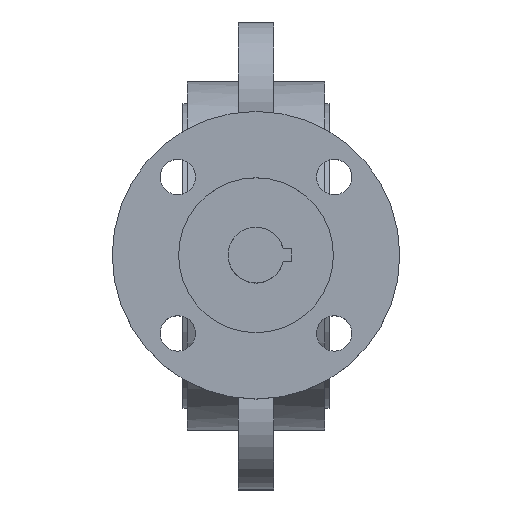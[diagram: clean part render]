
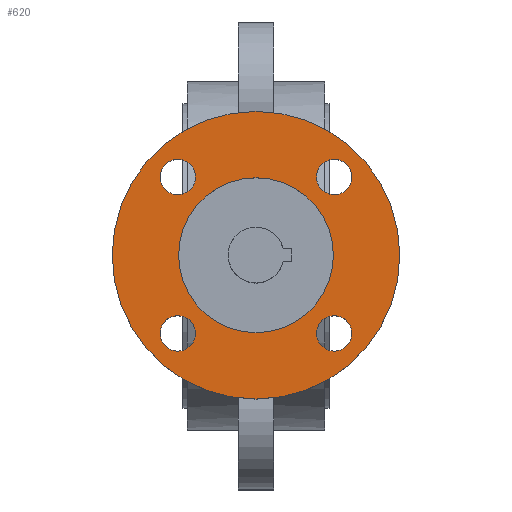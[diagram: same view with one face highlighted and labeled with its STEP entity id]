
A CAD part, top view. The second image highlights one B-rep face of the part: STEP entity #620.
In plain terms, the highlighted planar face has unit normal (0, 0, 1).
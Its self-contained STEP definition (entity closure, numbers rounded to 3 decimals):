
#620=ADVANCED_FACE('',(#1381,#1383,#1385,#1387,#1389,#1391),#1393,.T.);
#1381=FACE_BOUND('',#1382,.T.);
#1382=EDGE_LOOP('',(#1876));
#1383=FACE_BOUND('',#1384,.T.);
#1384=EDGE_LOOP('',(#1877));
#1385=FACE_BOUND('',#1386,.T.);
#1386=EDGE_LOOP('',(#1878));
#1387=FACE_BOUND('',#1388,.T.);
#1388=EDGE_LOOP('',(#1879));
#1389=FACE_BOUND('',#1390,.T.);
#1390=EDGE_LOOP('',(#1880));
#1391=FACE_BOUND('',#1392,.T.);
#1392=EDGE_LOOP('',(#1881));
#1393=PLANE('',#1394);
#1394=AXIS2_PLACEMENT_3D('',#1395,#1396,#1397);
#1395=CARTESIAN_POINT('',(0.,0.,100.));
#1396=DIRECTION('',(0.,0.,1.));
#1397=DIRECTION('',(0.,1.,0.));
#1876=ORIENTED_EDGE('',*,*,#2122,.F.);
#1877=ORIENTED_EDGE('',*,*,#2123,.T.);
#1878=ORIENTED_EDGE('',*,*,#2124,.T.);
#1879=ORIENTED_EDGE('',*,*,#2125,.T.);
#1880=ORIENTED_EDGE('',*,*,#2141,.T.);
#1881=ORIENTED_EDGE('',*,*,#2126,.T.);
#2122=EDGE_CURVE('',#2425,#2425,#2426,.T.);
#2123=EDGE_CURVE('',#2427,#2427,#2428,.F.);
#2124=EDGE_CURVE('',#2429,#2429,#2430,.F.);
#2125=EDGE_CURVE('',#2431,#2431,#2432,.F.);
#2126=EDGE_CURVE('',#2433,#2433,#2434,.F.);
#2141=EDGE_CURVE('',#2463,#2463,#2464,.T.);
#2425=VERTEX_POINT('',#4208);
#2426=CIRCLE('',#4209,32.5);
#2427=VERTEX_POINT('',#4213);
#2428=CIRCLE('',#4214,4.);
#2429=VERTEX_POINT('',#4218);
#2430=CIRCLE('',#4219,4.);
#2431=VERTEX_POINT('',#4223);
#2432=CIRCLE('',#4224,4.);
#2433=VERTEX_POINT('',#4228);
#2434=CIRCLE('',#4229,4.);
#2463=VERTEX_POINT('',#4296);
#2464=CIRCLE('',#4297,17.5);
#4208=CARTESIAN_POINT('',(0.,32.5,100.));
#4209=AXIS2_PLACEMENT_3D('',#4210,#4211,#4212);
#4210=CARTESIAN_POINT('',(0.,0.,100.));
#4211=DIRECTION('',(0.,0.,-1.));
#4212=DIRECTION('',(0.,1.,0.));
#4213=CARTESIAN_POINT('',(-13.678,-17.678,100.));
#4214=AXIS2_PLACEMENT_3D('',#4215,#4216,#4217);
#4215=CARTESIAN_POINT('',(-17.678,-17.678,100.));
#4216=DIRECTION('',(0.,0.,1.));
#4217=DIRECTION('',(1.,0.,0.));
#4218=CARTESIAN_POINT('',(-17.678,13.678,100.));
#4219=AXIS2_PLACEMENT_3D('',#4220,#4221,#4222);
#4220=CARTESIAN_POINT('',(-17.678,17.678,100.));
#4221=DIRECTION('',(0.,0.,1.));
#4222=DIRECTION('',(0.,-1.,0.));
#4223=CARTESIAN_POINT('',(13.678,17.678,100.));
#4224=AXIS2_PLACEMENT_3D('',#4225,#4226,#4227);
#4225=CARTESIAN_POINT('',(17.678,17.678,100.));
#4226=DIRECTION('',(0.,0.,1.));
#4227=DIRECTION('',(-1.,0.,0.));
#4228=CARTESIAN_POINT('',(17.678,-13.678,100.));
#4229=AXIS2_PLACEMENT_3D('',#4230,#4231,#4232);
#4230=CARTESIAN_POINT('',(17.678,-17.678,100.));
#4231=DIRECTION('',(0.,0.,1.));
#4232=DIRECTION('',(0.,1.,0.));
#4296=CARTESIAN_POINT('',(0.,17.5,100.));
#4297=AXIS2_PLACEMENT_3D('',#4298,#4299,#4300);
#4298=CARTESIAN_POINT('',(0.,0.,100.));
#4299=DIRECTION('',(0.,0.,-1.));
#4300=DIRECTION('',(0.,1.,0.));
